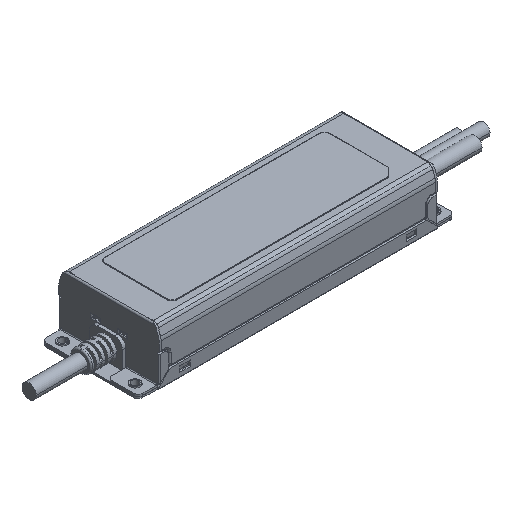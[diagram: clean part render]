
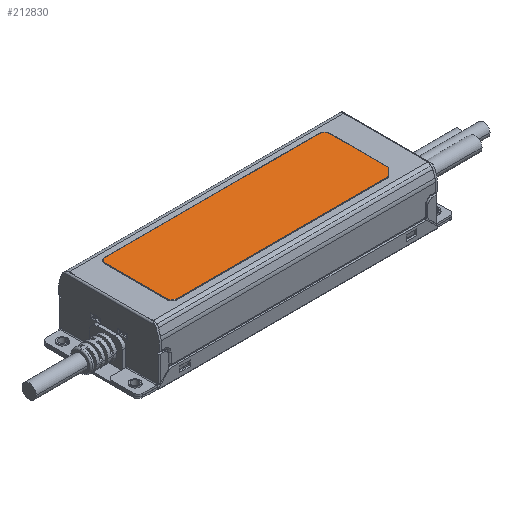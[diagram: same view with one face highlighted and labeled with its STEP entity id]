
A CAD part, isometric view. The second image highlights one B-rep face of the part: STEP entity #212830.
In plain terms, the highlighted planar face has unit normal (0, 0, 1).
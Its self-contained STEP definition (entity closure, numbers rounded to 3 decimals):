
#210260=CARTESIAN_POINT('',(162.355,56.548,34.3));
#210270=VERTEX_POINT('',#210260);
#210360=CARTESIAN_POINT('',(162.355,19.631,34.3));
#210370=VERTEX_POINT('',#210360);
#210400=CARTESIAN_POINT('',(162.355,0.,34.3));
#210410=DIRECTION('',(-0.,1.,0.));
#210420=VECTOR('',#210410,1.);
#210430=LINE('',#210400,#210420);
#210440=EDGE_CURVE('',#210370,#210270,#210430,.T.);
#212180=CARTESIAN_POINT('',(149.066,46.025,34.3));
#212190=DIRECTION('',(0.,0.,1.));
#212200=DIRECTION('',(1.,0.,0.));
#212210=AXIS2_PLACEMENT_3D('',#212180,#212190,#212200);
#212220=PLANE('',#212210);
#212230=CARTESIAN_POINT('',(24.555,18.048,34.3));
#212240=DIRECTION('',(0.,0.,-1.));
#212250=DIRECTION('',(-1.,0.,0.));
#212260=AXIS2_PLACEMENT_3D('',#212230,#212240,#212250);
#212270=CIRCLE('',#212260,3.3);
#212280=CARTESIAN_POINT('',(24.555,14.748,34.3));
#212290=VERTEX_POINT('',#212280);
#212300=CARTESIAN_POINT('',(21.255,18.048,34.3));
#212310=VERTEX_POINT('',#212300);
#212320=EDGE_CURVE('',#212290,#212310,#212270,.T.);
#212330=ORIENTED_EDGE('',*,*,#212320,.F.);
#212340=CARTESIAN_POINT('',(21.255,0.,34.3));
#212350=DIRECTION('',(0.,-1.,0.));
#212360=VECTOR('',#212350,1.);
#212370=LINE('',#212340,#212360);
#212380=CARTESIAN_POINT('',(21.255,56.548,34.3));
#212390=VERTEX_POINT('',#212380);
#212400=EDGE_CURVE('',#212390,#212310,#212370,.T.);
#212410=ORIENTED_EDGE('',*,*,#212400,.T.);
#212420=CARTESIAN_POINT('',(24.555,56.548,34.3));
#212430=DIRECTION('',(0.,0.,1.));
#212440=DIRECTION('',(1.,0.,0.));
#212450=AXIS2_PLACEMENT_3D('',#212420,#212430,#212440);
#212460=CIRCLE('',#212450,3.3);
#212470=CARTESIAN_POINT('',(24.555,59.848,34.3));
#212480=VERTEX_POINT('',#212470);
#212490=EDGE_CURVE('',#212480,#212390,#212460,.T.);
#212500=ORIENTED_EDGE('',*,*,#212490,.T.);
#212510=CARTESIAN_POINT('',(0.,59.848,34.3));
#212520=DIRECTION('',(-1.,0.,0.));
#212530=VECTOR('',#212520,1.);
#212540=LINE('',#212510,#212530);
#212550=CARTESIAN_POINT('',(159.055,59.848,34.3));
#212560=VERTEX_POINT('',#212550);
#212570=EDGE_CURVE('',#212560,#212480,#212540,.T.);
#212580=ORIENTED_EDGE('',*,*,#212570,.T.);
#212590=CARTESIAN_POINT('',(159.055,56.548,34.3));
#212600=DIRECTION('',(0.,0.,-1.));
#212610=DIRECTION('',(-1.,0.,-0.));
#212620=AXIS2_PLACEMENT_3D('',#212590,#212600,#212610);
#212630=CIRCLE('',#212620,3.3);
#212640=EDGE_CURVE('',#212560,#210270,#212630,.T.);
#212650=ORIENTED_EDGE('',*,*,#212640,.F.);
#212660=ORIENTED_EDGE('',*,*,#210440,.T.);
#212670=CARTESIAN_POINT('',(142.724,0.,34.3));
#212680=DIRECTION('',(-0.707,-0.707,0.));
#212690=VECTOR('',#212680,1.);
#212700=LINE('',#212670,#212690);
#212710=CARTESIAN_POINT('',(157.472,14.748,34.3));
#212720=VERTEX_POINT('',#212710);
#212730=EDGE_CURVE('',#210370,#212720,#212700,.T.);
#212740=ORIENTED_EDGE('',*,*,#212730,.F.);
#212750=CARTESIAN_POINT('',(0.,14.748,34.3));
#212760=DIRECTION('',(1.,0.,-0.));
#212770=VECTOR('',#212760,1.);
#212780=LINE('',#212750,#212770);
#212790=EDGE_CURVE('',#212290,#212720,#212780,.T.);
#212800=ORIENTED_EDGE('',*,*,#212790,.T.);
#212810=EDGE_LOOP('',(#212800,#212740,#212660,#212650,#212580,#212500,
#212410,#212330));
#212820=FACE_OUTER_BOUND('',#212810,.T.);
#212830=ADVANCED_FACE('',(#212820),#212220,.T.);
